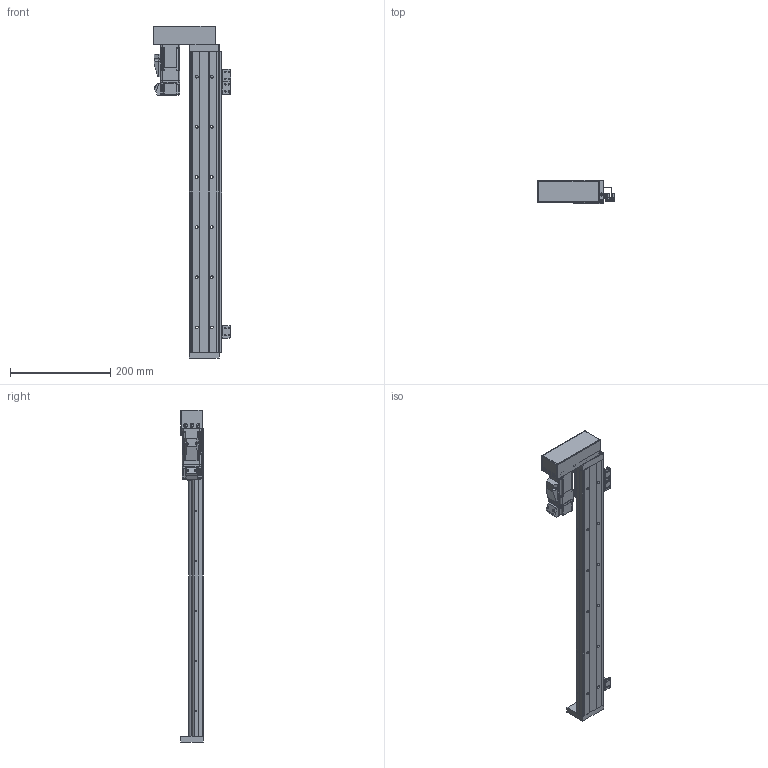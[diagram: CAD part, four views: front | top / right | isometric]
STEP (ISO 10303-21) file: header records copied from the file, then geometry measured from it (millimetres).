
FILE_DESCRIPTION (( 'STEP AP203' ), '1' );
FILE_NAME ('KH60D10C-600A1-H2RS1.STEP', '2022-06-08T06:13:17', ( 'CXY' ), ( 'BT' ), 'SwSTEP 2.0', 'SolidWorks 2016', '' );
FILE_SCHEMA (( 'CONFIG_CONTROL_DESIGN' ));
Length unit declared in the file: millimetre
Products named in the file (22): KK60-02-04; KK60-02-01-H0_KK60-02-01-H0&H1; B-KK60-A1-F0C; 囀鞠褒す埴芛蹟隊M3℅5; 綴釱; KK60-02-03; PM-Y65; KK60-02-02; KH60-500; KK60-01-02-XXXX_KK60-01-02-150; 内六角圆柱头螺钉M3×18; 錨璃2; 侂狟萇儂P10B; 216々湍; KH60D10C-600A1-H2RS1; KK60-08-01; KH86-08-SX674; KH60-02-0000; 鞠褒蹟譫M3; 内六角圆柱头螺钉M3×10; KK60-04-07G; 晦埴芛M3X6蹟隊
Assembly tree (36 placements, depth 3):
  KH60D10C-600A1-H2RS1
    KH60-500
    B-KK60-A1-F0C
      錨璃2
    綴釱
    KH86-08-SX674  x3
      KK60-08-01
      囀鞠褒す埴芛蹟隊M3℅5
      鞠褒蹟譫M3
    KK60-01-02-XXXX_KK60-01-02-150
    KH60-02-0000
      KK60-02-01-H0_KK60-02-01-H0&H1
      KK60-02-02
      KK60-02-03
      内六角圆柱头螺钉M3×18  x4
      侂狟萇儂P10B
      KK60-02-04
      216々湍
      内六角圆柱头螺钉M3×10  x4
      晦埴芛M3X6蹟隊  x4
    KK60-04-07G
    PM-Y65  x3
Bounding box: 153.7 x 45 x 662 mm (x, y, z)
Volume: 821508.1 mm3; surface area: 285981.6 mm2
Topology: 42 solids, 42 shells, 2578 faces, 6742 edges, 4339 vertices
Faces by surface type: plane 1347, cylinder 612, bspline 280, cone 265, torus 62, sphere 12
Entity records: 64066 total; most frequent: CARTESIAN_POINT 15636, ORIENTED_EDGE 9946, DIRECTION 8660, EDGE_CURVE 4973, VERTEX_POINT 3266, VECTOR 3144, LINE 3144, AXIS2_PLACEMENT_3D 2758
